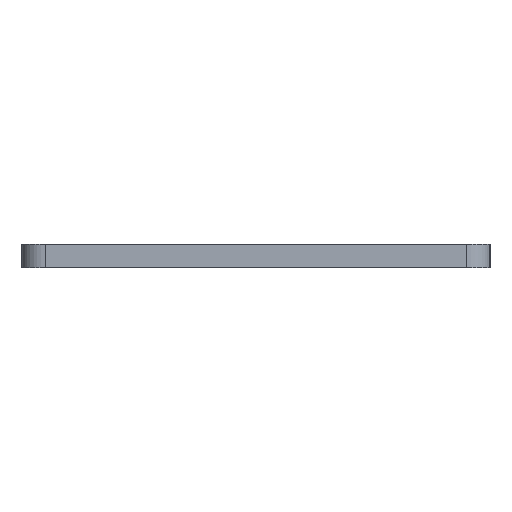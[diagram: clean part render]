
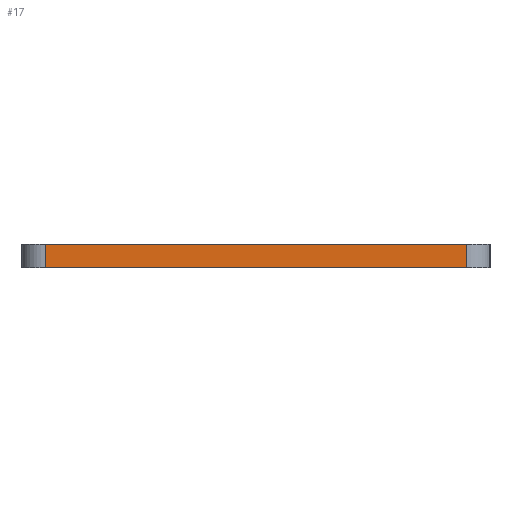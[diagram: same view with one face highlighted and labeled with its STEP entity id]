
A CAD part, left-side view. The second image highlights one B-rep face of the part: STEP entity #17.
In plain terms, the highlighted planar face has unit normal (-1, 0, 0).
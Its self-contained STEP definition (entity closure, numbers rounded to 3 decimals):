
#17 = ADVANCED_FACE('',(#18),#32,.T.);
#18 = FACE_BOUND('',#19,.T.);
#19 = EDGE_LOOP('',(#20,#55,#83,#111));
#20 = ORIENTED_EDGE('',*,*,#21,.T.);
#21 = EDGE_CURVE('',#22,#24,#26,.T.);
#22 = VERTEX_POINT('',#23);
#23 = CARTESIAN_POINT('',(0.,2.,0.));
#24 = VERTEX_POINT('',#25);
#25 = CARTESIAN_POINT('',(0.,2.,2.));
#26 = SURFACE_CURVE('',#27,(#31,#43),.PCURVE_S1.);
#27 = LINE('',#28,#29);
#28 = CARTESIAN_POINT('',(0.,2.,0.));
#29 = VECTOR('',#30,1.);
#30 = DIRECTION('',(0.,0.,1.));
#31 = PCURVE('',#32,#37);
#32 = PLANE('',#33);
#33 = AXIS2_PLACEMENT_3D('',#34,#35,#36);
#34 = CARTESIAN_POINT('',(0.,2.,0.));
#35 = DIRECTION('',(-1.,0.,0.));
#36 = DIRECTION('',(0.,1.,0.));
#37 = DEFINITIONAL_REPRESENTATION('',(#38),#42);
#38 = LINE('',#39,#40);
#39 = CARTESIAN_POINT('',(0.,0.));
#40 = VECTOR('',#41,1.);
#41 = DIRECTION('',(0.,-1.));
#42 = ( GEOMETRIC_REPRESENTATION_CONTEXT(2) 
PARAMETRIC_REPRESENTATION_CONTEXT() REPRESENTATION_CONTEXT('2D SPACE',''
  ) );
#43 = PCURVE('',#44,#49);
#44 = CYLINDRICAL_SURFACE('',#45,2.);
#45 = AXIS2_PLACEMENT_3D('',#46,#47,#48);
#46 = CARTESIAN_POINT('',(2.,2.,0.));
#47 = DIRECTION('',(-0.,-0.,-1.));
#48 = DIRECTION('',(1.,0.,0.));
#49 = DEFINITIONAL_REPRESENTATION('',(#50),#54);
#50 = LINE('',#51,#52);
#51 = CARTESIAN_POINT('',(-3.142,0.));
#52 = VECTOR('',#53,1.);
#53 = DIRECTION('',(-0.,-1.));
#54 = ( GEOMETRIC_REPRESENTATION_CONTEXT(2) 
PARAMETRIC_REPRESENTATION_CONTEXT() REPRESENTATION_CONTEXT('2D SPACE',''
  ) );
#55 = ORIENTED_EDGE('',*,*,#56,.T.);
#56 = EDGE_CURVE('',#24,#57,#59,.T.);
#57 = VERTEX_POINT('',#58);
#58 = CARTESIAN_POINT('',(0.,38.,2.));
#59 = SURFACE_CURVE('',#60,(#64,#71),.PCURVE_S1.);
#60 = LINE('',#61,#62);
#61 = CARTESIAN_POINT('',(0.,2.,2.));
#62 = VECTOR('',#63,1.);
#63 = DIRECTION('',(0.,1.,0.));
#64 = PCURVE('',#32,#65);
#65 = DEFINITIONAL_REPRESENTATION('',(#66),#70);
#66 = LINE('',#67,#68);
#67 = CARTESIAN_POINT('',(0.,-2.));
#68 = VECTOR('',#69,1.);
#69 = DIRECTION('',(1.,0.));
#70 = ( GEOMETRIC_REPRESENTATION_CONTEXT(2) 
PARAMETRIC_REPRESENTATION_CONTEXT() REPRESENTATION_CONTEXT('2D SPACE',''
  ) );
#71 = PCURVE('',#72,#77);
#72 = PLANE('',#73);
#73 = AXIS2_PLACEMENT_3D('',#74,#75,#76);
#74 = CARTESIAN_POINT('',(53.,20.,2.));
#75 = DIRECTION('',(-0.,-0.,-1.));
#76 = DIRECTION('',(-1.,0.,0.));
#77 = DEFINITIONAL_REPRESENTATION('',(#78),#82);
#78 = LINE('',#79,#80);
#79 = CARTESIAN_POINT('',(53.,-18.));
#80 = VECTOR('',#81,1.);
#81 = DIRECTION('',(0.,1.));
#82 = ( GEOMETRIC_REPRESENTATION_CONTEXT(2) 
PARAMETRIC_REPRESENTATION_CONTEXT() REPRESENTATION_CONTEXT('2D SPACE',''
  ) );
#83 = ORIENTED_EDGE('',*,*,#84,.F.);
#84 = EDGE_CURVE('',#85,#57,#87,.T.);
#85 = VERTEX_POINT('',#86);
#86 = CARTESIAN_POINT('',(0.,38.,0.));
#87 = SURFACE_CURVE('',#88,(#92,#99),.PCURVE_S1.);
#88 = LINE('',#89,#90);
#89 = CARTESIAN_POINT('',(0.,38.,0.));
#90 = VECTOR('',#91,1.);
#91 = DIRECTION('',(0.,0.,1.));
#92 = PCURVE('',#32,#93);
#93 = DEFINITIONAL_REPRESENTATION('',(#94),#98);
#94 = LINE('',#95,#96);
#95 = CARTESIAN_POINT('',(36.,0.));
#96 = VECTOR('',#97,1.);
#97 = DIRECTION('',(0.,-1.));
#98 = ( GEOMETRIC_REPRESENTATION_CONTEXT(2) 
PARAMETRIC_REPRESENTATION_CONTEXT() REPRESENTATION_CONTEXT('2D SPACE',''
  ) );
#99 = PCURVE('',#100,#105);
#100 = CYLINDRICAL_SURFACE('',#101,2.);
#101 = AXIS2_PLACEMENT_3D('',#102,#103,#104);
#102 = CARTESIAN_POINT('',(2.,38.,0.));
#103 = DIRECTION('',(-0.,-0.,-1.));
#104 = DIRECTION('',(1.,0.,0.));
#105 = DEFINITIONAL_REPRESENTATION('',(#106),#110);
#106 = LINE('',#107,#108);
#107 = CARTESIAN_POINT('',(-3.142,0.));
#108 = VECTOR('',#109,1.);
#109 = DIRECTION('',(-0.,-1.));
#110 = ( GEOMETRIC_REPRESENTATION_CONTEXT(2) 
PARAMETRIC_REPRESENTATION_CONTEXT() REPRESENTATION_CONTEXT('2D SPACE',''
  ) );
#111 = ORIENTED_EDGE('',*,*,#112,.F.);
#112 = EDGE_CURVE('',#22,#85,#113,.T.);
#113 = SURFACE_CURVE('',#114,(#118,#125),.PCURVE_S1.);
#114 = LINE('',#115,#116);
#115 = CARTESIAN_POINT('',(0.,2.,0.));
#116 = VECTOR('',#117,1.);
#117 = DIRECTION('',(0.,1.,0.));
#118 = PCURVE('',#32,#119);
#119 = DEFINITIONAL_REPRESENTATION('',(#120),#124);
#120 = LINE('',#121,#122);
#121 = CARTESIAN_POINT('',(0.,0.));
#122 = VECTOR('',#123,1.);
#123 = DIRECTION('',(1.,0.));
#124 = ( GEOMETRIC_REPRESENTATION_CONTEXT(2) 
PARAMETRIC_REPRESENTATION_CONTEXT() REPRESENTATION_CONTEXT('2D SPACE',''
  ) );
#125 = PCURVE('',#126,#131);
#126 = PLANE('',#127);
#127 = AXIS2_PLACEMENT_3D('',#128,#129,#130);
#128 = CARTESIAN_POINT('',(53.,20.,0.));
#129 = DIRECTION('',(-0.,-0.,-1.));
#130 = DIRECTION('',(-1.,0.,0.));
#131 = DEFINITIONAL_REPRESENTATION('',(#132),#136);
#132 = LINE('',#133,#134);
#133 = CARTESIAN_POINT('',(53.,-18.));
#134 = VECTOR('',#135,1.);
#135 = DIRECTION('',(0.,1.));
#136 = ( GEOMETRIC_REPRESENTATION_CONTEXT(2) 
PARAMETRIC_REPRESENTATION_CONTEXT() REPRESENTATION_CONTEXT('2D SPACE',''
  ) );
